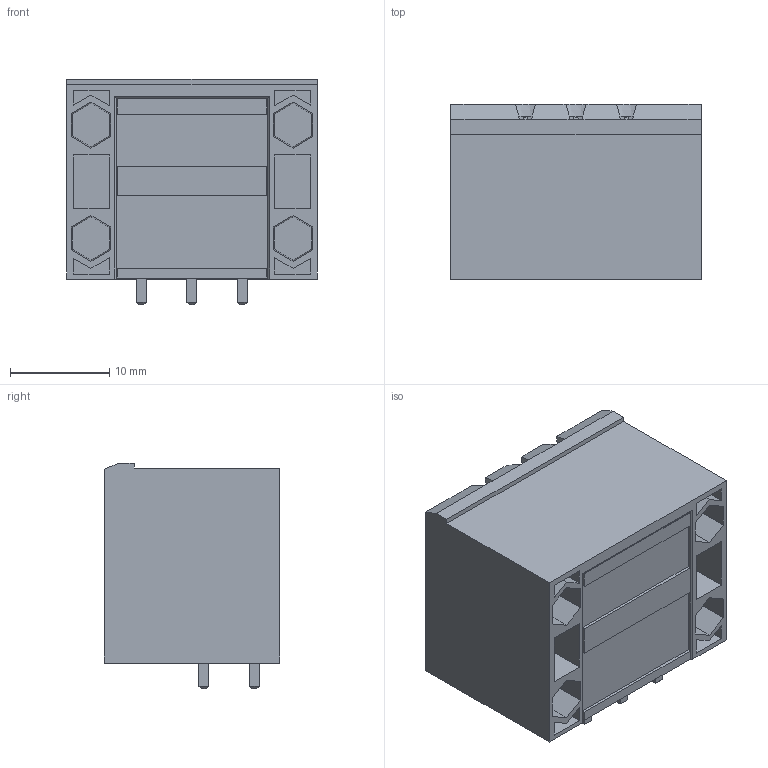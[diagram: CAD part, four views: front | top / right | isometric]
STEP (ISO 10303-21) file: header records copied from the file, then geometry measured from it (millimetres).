
FILE_DESCRIPTION((''),'2;1');
FILE_NAME('333','2019-04-15T',('zhenbing.lai'),(''),'CREO PARAMETRIC BY PTC INC, 2016260','CREO PARAMETRIC BY PTC INC, 2016260','');
FILE_SCHEMA(('CONFIG_CONTROL_DESIGN'));
Length unit declared in the file: millimetre
Products named in the file (1): 333
Bounding box: 25.16 x 17.6 x 22.7 mm (x, y, z)
Volume: 5847.2 mm3; surface area: 5253.4 mm2
Topology: 1 solids, 1 shells, 446 faces, 1196 edges, 770 vertices
Faces by surface type: plane 377, cylinder 45, cone 20, torus 4
Entity records: 13885 total; most frequent: CARTESIAN_POINT 2711, ORIENTED_EDGE 2392, DIRECTION 2162, EDGE_CURVE 1196, VECTOR 1006, LINE 1006, VERTEX_POINT 770, AXIS2_PLACEMENT_3D 578
